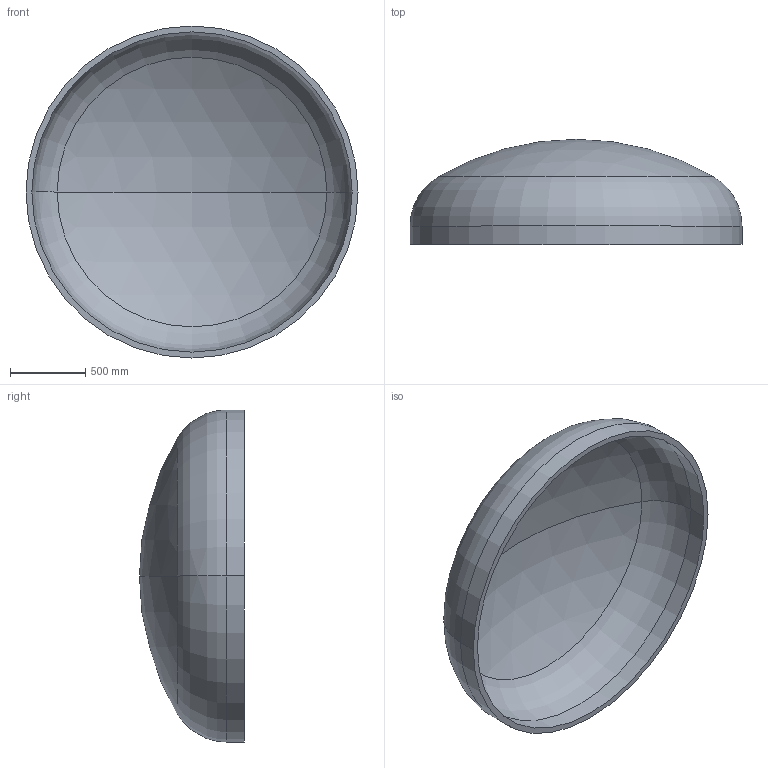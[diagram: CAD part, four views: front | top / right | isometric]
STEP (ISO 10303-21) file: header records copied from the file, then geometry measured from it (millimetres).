
FILE_DESCRIPTION (( 'STEP AP203' ), '1' );
FILE_NAME ('DIN 28013 Korbbogenform_-_Boden DIN 28013 - 2200 x 120 - I - s=39.step', '2016-07-01T14:34:34', ( '' ), ( '' ), 'SwSTEP 2.0', 'SolidWorks 2013', '' );
FILE_SCHEMA (( 'CONFIG_CONTROL_DESIGN' ));
Length unit declared in the file: millimetre
Products named in the file (1): DIN 28013 Korbbogenform_-_Boden DIN 28013 - 2200 x 120 - I - s=39
Bounding box: 2200 x 695.66 x 2200 mm (x, y, z)
Volume: 232496099.9 mm3; surface area: 12190828.9 mm2
Topology: 1 solids, 1 shells, 13 faces, 24 edges, 14 vertices
Faces by surface type: torus 4, cylinder 4, sphere 4, plane 1
Entity records: 407 total; most frequent: DIRECTION 72, CARTESIAN_POINT 52, ORIENTED_EDGE 48, AXIS2_PLACEMENT_3D 34, EDGE_CURVE 24, CIRCLE 20, VERTEX_POINT 14, EDGE_LOOP 14
